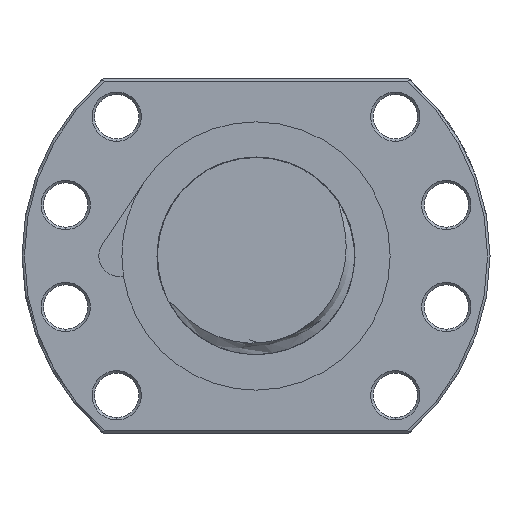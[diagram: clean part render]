
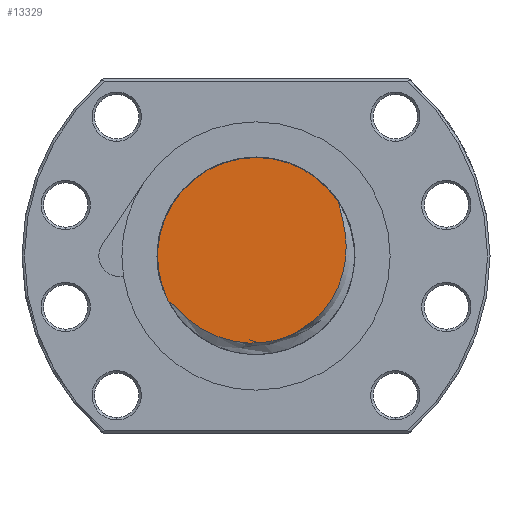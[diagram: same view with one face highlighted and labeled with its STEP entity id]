
A CAD part, left-side view. The second image highlights one B-rep face of the part: STEP entity #13329.
In plain terms, the highlighted planar face has unit normal (-1, 0, 0).
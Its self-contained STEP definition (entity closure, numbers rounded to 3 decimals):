
#8834 = CIRCLE ( 'NONE', #8855, 20. ) ;
#8852 = DIRECTION ( 'NONE',  ( 0., 1., 0. ) ) ;
#8853 = DIRECTION ( 'NONE',  ( 1., 0., 0. ) ) ;
#8854 = CARTESIAN_POINT ( 'NONE',  ( -232., 0., 0. ) ) ;
#8855 = AXIS2_PLACEMENT_3D ( 'NONE', #8854, #8853, #8852 ) ;
#8856 = CARTESIAN_POINT ( 'NONE',  ( -232., -16.713, 10.986 ) ) ;
#12068 = CARTESIAN_POINT ( 'NONE',  ( -232., 0., 20. ) ) ;
#12069 = CARTESIAN_POINT ( 'NONE',  ( -232., 17.87, -8.981 ) ) ;
#12070 = DIRECTION ( 'NONE',  ( 0., 1., 0. ) ) ;
#12071 = DIRECTION ( 'NONE',  ( 1., 0., 0. ) ) ;
#12072 = AXIS2_PLACEMENT_3D ( 'NONE', #12079, #12071, #12070 ) ;
#12073 = CIRCLE ( 'NONE', #12072, 20. ) ;
#12079 = CARTESIAN_POINT ( 'NONE',  ( -232., 0., 0. ) ) ;
#13329 = ADVANCED_FACE ( 'NONE', ( #36856 ), #36845, .F. ) ;
#13332 = EDGE_LOOP ( 'NONE', ( #13334, #13336, #13341 ) ) ;
#13334 = ORIENTED_EDGE ( 'NONE', *, *, #14152, .F. ) ;
#13336 = ORIENTED_EDGE ( 'NONE', *, *, #13338, .T. ) ;
#13338 = EDGE_CURVE ( 'NONE', #14153, #26315, #36751, .T. ) ;
#13341 = ORIENTED_EDGE ( 'NONE', *, *, #26314, .F. ) ;
#14152 = EDGE_CURVE ( 'NONE', #14153, #14154, #12073, .T. ) ;
#14153 = VERTEX_POINT ( 'NONE', #12069 ) ;
#14154 = VERTEX_POINT ( 'NONE', #12068 ) ;
#26314 = EDGE_CURVE ( 'NONE', #14154, #26315, #8834, .T. ) ;
#26315 = VERTEX_POINT ( 'NONE', #8856 ) ;
#36637 = CARTESIAN_POINT ( 'NONE',  ( -232., -16.713, 10.986 ) ) ;
#36639 = CARTESIAN_POINT ( 'NONE',  ( -232., -16.769, 10.679 ) ) ;
#36641 = CARTESIAN_POINT ( 'NONE',  ( -232., -16.845, 10.377 ) ) ;
#36643 = CARTESIAN_POINT ( 'NONE',  ( -232., -17.002, 9.774 ) ) ;
#36645 = CARTESIAN_POINT ( 'NONE',  ( -232., -17.084, 9.474 ) ) ;
#36647 = CARTESIAN_POINT ( 'NONE',  ( -232., -17.328, 8.572 ) ) ;
#36649 = CARTESIAN_POINT ( 'NONE',  ( -232., -17.485, 7.97 ) ) ;
#36650 = CARTESIAN_POINT ( 'NONE',  ( -232., -17.904, 6.153 ) ) ;
#36652 = CARTESIAN_POINT ( 'NONE',  ( -232., -18.111, 4.93 ) ) ;
#36654 = CARTESIAN_POINT ( 'NONE',  ( -232., -18.271, 3.068 ) ) ;
#36656 = CARTESIAN_POINT ( 'NONE',  ( -232., -18.299, 2.442 ) ) ;
#36658 = CARTESIAN_POINT ( 'NONE',  ( -232., -18.302, 1.202 ) ) ;
#36660 = CARTESIAN_POINT ( 'NONE',  ( -232., -18.276, 0.584 ) ) ;
#36662 = CARTESIAN_POINT ( 'NONE',  ( -232., -18.171, -0.647 ) ) ;
#36664 = CARTESIAN_POINT ( 'NONE',  ( -232., -18.091, -1.259 ) ) ;
#36666 = CARTESIAN_POINT ( 'NONE',  ( -232., -17.875, -2.479 ) ) ;
#36668 = CARTESIAN_POINT ( 'NONE',  ( -232., -17.738, -3.088 ) ) ;
#36671 = CARTESIAN_POINT ( 'NONE',  ( -232., -17.242, -4.893 ) ) ;
#36672 = CARTESIAN_POINT ( 'NONE',  ( -232., -16.802, -6.048 ) ) ;
#36674 = CARTESIAN_POINT ( 'NONE',  ( -232., -15.982, -7.71 ) ) ;
#36676 = CARTESIAN_POINT ( 'NONE',  ( -232., -15.682, -8.251 ) ) ;
#36678 = CARTESIAN_POINT ( 'NONE',  ( -232., -15.026, -9.31 ) ) ;
#36680 = CARTESIAN_POINT ( 'NONE',  ( -232., -14.67, -9.826 ) ) ;
#36682 = CARTESIAN_POINT ( 'NONE',  ( -232., -13.539, -11.302 ) ) ;
#36684 = CARTESIAN_POINT ( 'NONE',  ( -232., -12.697, -12.203 ) ) ;
#36686 = CARTESIAN_POINT ( 'NONE',  ( -232., -11.301, -13.431 ) ) ;
#36688 = CARTESIAN_POINT ( 'NONE',  ( -232., -10.81, -13.821 ) ) ;
#36690 = CARTESIAN_POINT ( 'NONE',  ( -232., -9.797, -14.546 ) ) ;
#36692 = CARTESIAN_POINT ( 'NONE',  ( -232., -9.277, -14.881 ) ) ;
#36694 = CARTESIAN_POINT ( 'NONE',  ( -232., -7.672, -15.804 ) ) ;
#36696 = CARTESIAN_POINT ( 'NONE',  ( -232., -6.547, -16.313 ) ) ;
#36698 = CARTESIAN_POINT ( 'NONE',  ( -232., -4.772, -16.91 ) ) ;
#36700 = CARTESIAN_POINT ( 'NONE',  ( -232., -4.171, -17.079 ) ) ;
#36701 = CARTESIAN_POINT ( 'NONE',  ( -232., -2.965, -17.355 ) ) ;
#36703 = CARTESIAN_POINT ( 'NONE',  ( -232., -2.358, -17.463 ) ) ;
#36705 = CARTESIAN_POINT ( 'NONE',  ( -232., -1.136, -17.621 ) ) ;
#36707 = CARTESIAN_POINT ( 'NONE',  ( -232., -0.521, -17.669 ) ) ;
#36709 = CARTESIAN_POINT ( 'NONE',  ( -232., 0.717, -17.707 ) ) ;
#36711 = CARTESIAN_POINT ( 'NONE',  ( -232., 1.344, -17.695 ) ) ;
#36713 = CARTESIAN_POINT ( 'NONE',  ( -232., 3.208, -17.57 ) ) ;
#36715 = CARTESIAN_POINT ( 'NONE',  ( -232., 4.426, -17.369 ) ) ;
#36717 = CARTESIAN_POINT ( 'NONE',  ( -232., 6.217, -16.899 ) ) ;
#36719 = CARTESIAN_POINT ( 'NONE',  ( -232., 6.808, -16.714 ) ) ;
#36721 = CARTESIAN_POINT ( 'NONE',  ( -232., 7.978, -16.288 ) ) ;
#36723 = CARTESIAN_POINT ( 'NONE',  ( -232., 8.556, -16.046 ) ) ;
#36725 = CARTESIAN_POINT ( 'NONE',  ( -232., 10.237, -15.255 ) ) ;
#36727 = CARTESIAN_POINT ( 'NONE',  ( -232., 11.298, -14.634 ) ) ;
#36729 = CARTESIAN_POINT ( 'NONE',  ( -232., 12.813, -13.577 ) ) ;
#36730 = CARTESIAN_POINT ( 'NONE',  ( -232., 13.305, -13.203 ) ) ;
#36732 = CARTESIAN_POINT ( 'NONE',  ( -232., 14.265, -12.418 ) ) ;
#36734 = CARTESIAN_POINT ( 'NONE',  ( -232., 14.734, -12.006 ) ) ;
#36736 = CARTESIAN_POINT ( 'NONE',  ( -232., 15.645, -11.157 ) ) ;
#36738 = CARTESIAN_POINT ( 'NONE',  ( -232., 16.088, -10.72 ) ) ;
#36740 = CARTESIAN_POINT ( 'NONE',  ( -232., 16.748, -10.058 ) ) ;
#36742 = CARTESIAN_POINT ( 'NONE',  ( -232., 16.967, -9.836 ) ) ;
#36744 = CARTESIAN_POINT ( 'NONE',  ( -232., 17.41, -9.399 ) ) ;
#36746 = CARTESIAN_POINT ( 'NONE',  ( -232., 17.634, -9.182 ) ) ;
#36748 = CARTESIAN_POINT ( 'NONE',  ( -232., 17.87, -8.981 ) ) ;
#36751 = B_SPLINE_CURVE_WITH_KNOTS ( 'NONE', 3,
 ( #36748, #36746, #36744, #36742, #36740, #36738, #36736, #36734, #36732, #36730, #36729, #36727, #36725, #36723, #36721, #36719, #36717, #36715, #36713, #36711, #36709, #36707, #36705, #36703, #36701, #36700, #36698, #36696, #36694, #36692, #36690, #36688, #36686, #36684, #36682, #36680, #36678, #36676, #36674, #36672, #36671, #36668, #36666, #36664, #36662, #36660, #36658, #36656, #36654, #36652, #36650, #36649, #36647, #36645, #36643, #36641, #36639, #36637 ),
 .UNSPECIFIED., .F., .F.,
 ( 4, 2, 2, 2, 2, 2, 2, 2, 2, 2, 2, 2, 2, 2, 2, 2, 2, 2, 2, 2, 2, 2, 2, 2, 2, 2, 2, 2, 4 ),
 ( 0.016, 0.017, 0.018, 0.019, 0.021, 0.023, 0.027, 0.029, 0.03, 0.034, 0.036, 0.038, 0.04, 0.042, 0.045, 0.047, 0.049, 0.053, 0.054, 0.056, 0.06, 0.062, 0.064, 0.065, 0.067, 0.071, 0.073, 0.074, 0.075 ),
 .UNSPECIFIED. ) ;
#36837 = DIRECTION ( 'NONE',  ( 0., 0., -1. ) ) ;
#36839 = DIRECTION ( 'NONE',  ( 1., 0., 0. ) ) ;
#36841 = CARTESIAN_POINT ( 'NONE',  ( -232., 0., 0. ) ) ;
#36843 = AXIS2_PLACEMENT_3D ( 'NONE', #36841, #36839, #36837 ) ;
#36845 = PLANE ( 'NONE',  #36843 ) ;
#36856 = FACE_OUTER_BOUND ( 'NONE', #13332, .T. ) ;
